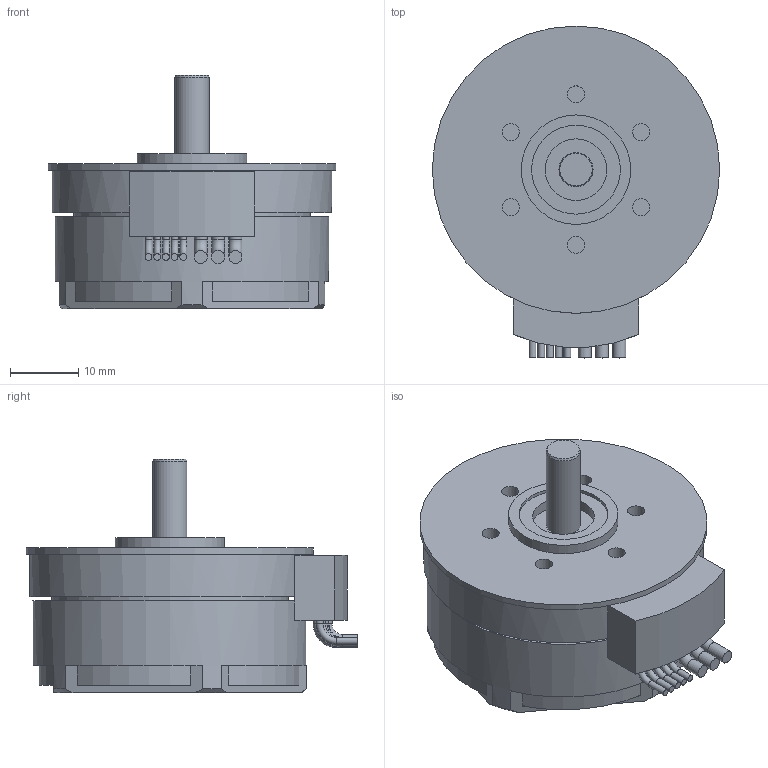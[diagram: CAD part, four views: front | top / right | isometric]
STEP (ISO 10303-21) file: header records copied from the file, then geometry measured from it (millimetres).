
FILE_DESCRIPTION(/* description */ (''),/* implementation_level */ '2;1');
FILE_NAME(/* name */ '4221.BXTR.stp',/* time_stamp */ '2019-07-24T08:39:39+02:00',/* author */ ('DR. FRITZ FAULHABER GmbH & Co. KG'),/* organization */ ('DR. FRITZ FAULHABER GmbH & Co. KG'),/* preprocessor_version */ 'ST-DEVELOPER v16.7',/* originating_system */ 'SIEMENS PLM Software NX 12.0',/* authorisation */ '');
FILE_SCHEMA (('AUTOMOTIVE_DESIGN { 1 0 10303 214 3 1 1 1 }'));
Length unit declared in the file: millimetre
Products named in the file (1): H00001431-C-4221.0H001
Bounding box: 42 x 48.5 x 34.2 mm (x, y, z)
Volume: 27805.3 mm3; surface area: 7232.9 mm2
Topology: 1 solids, 1 shells, 93 faces, 191 edges, 121 vertices
Faces by surface type: plane 42, cylinder 37, torus 8, cone 6
Full cylindrical faces by diameter (mm): 1 x10, 1.9 x6, 2.5 x6, 5 x1, 9 x1, 13 x1, 16 x1, 34.6 x1, 40 x1, 40.9 x1, 42 x1
Entity records: 2284 total; most frequent: DIRECTION 418, CARTESIAN_POINT 393, ORIENTED_EDGE 300, AXIS2_PLACEMENT_3D 184, EDGE_LOOP 153, EDGE_CURVE 150, VERTEX_POINT 119, FACE_BOUND 107
